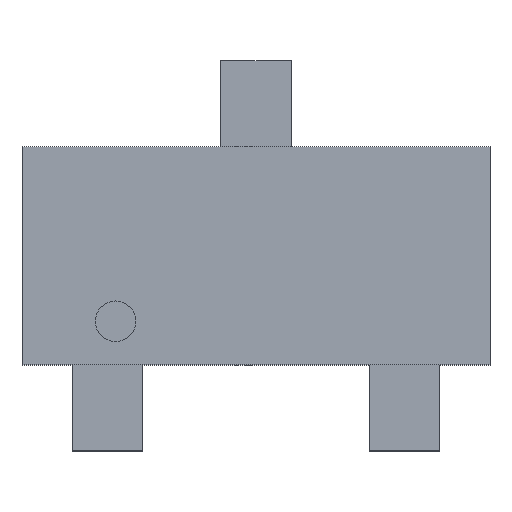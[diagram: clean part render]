
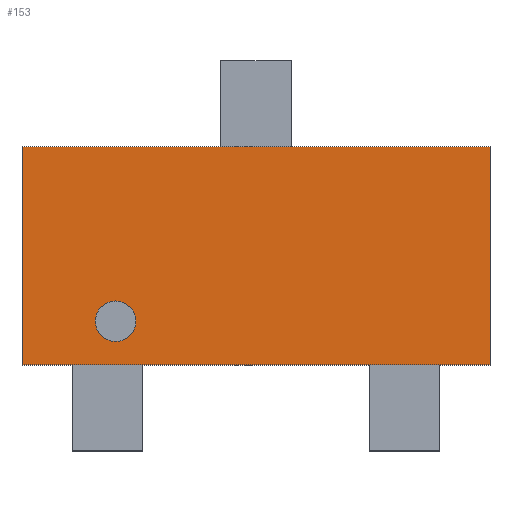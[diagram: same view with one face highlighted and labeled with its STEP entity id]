
A CAD part, top view. The second image highlights one B-rep face of the part: STEP entity #153.
In plain terms, the highlighted planar face has unit normal (0, 0, 1).
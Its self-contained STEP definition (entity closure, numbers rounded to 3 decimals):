
#24 = VERTEX_POINT('',#25);
#25 = CARTESIAN_POINT('',(-1.5,-0.7,1.1));
#31 = EDGE_CURVE('',#24,#32,#34,.T.);
#32 = VERTEX_POINT('',#33);
#33 = CARTESIAN_POINT('',(1.5,-0.7,1.1));
#34 = LINE('',#35,#36);
#35 = CARTESIAN_POINT('',(-1.5,-0.7,1.1));
#36 = VECTOR('',#37,1.);
#37 = DIRECTION('',(1.,0.,0.));
#62 = EDGE_CURVE('',#32,#63,#65,.T.);
#63 = VERTEX_POINT('',#64);
#64 = CARTESIAN_POINT('',(1.5,0.7,1.1));
#65 = LINE('',#66,#67);
#66 = CARTESIAN_POINT('',(1.5,-0.7,1.1));
#67 = VECTOR('',#68,1.);
#68 = DIRECTION('',(0.,1.,0.));
#93 = EDGE_CURVE('',#63,#94,#96,.T.);
#94 = VERTEX_POINT('',#95);
#95 = CARTESIAN_POINT('',(-1.5,0.7,1.1));
#96 = LINE('',#97,#98);
#97 = CARTESIAN_POINT('',(1.5,0.7,1.1));
#98 = VECTOR('',#99,1.);
#99 = DIRECTION('',(-1.,0.,0.));
#124 = EDGE_CURVE('',#94,#24,#125,.T.);
#125 = LINE('',#126,#127);
#126 = CARTESIAN_POINT('',(-1.5,0.7,1.1));
#127 = VECTOR('',#128,1.);
#128 = DIRECTION('',(0.,-1.,0.));
#153 = ADVANCED_FACE('',(#154),#160,.T.);
#154 = FACE_BOUND('',#155,.T.);
#155 = EDGE_LOOP('',(#156,#157,#158,#159));
#156 = ORIENTED_EDGE('',*,*,#31,.T.);
#157 = ORIENTED_EDGE('',*,*,#62,.T.);
#158 = ORIENTED_EDGE('',*,*,#93,.T.);
#159 = ORIENTED_EDGE('',*,*,#124,.T.);
#160 = PLANE('',#161);
#161 = AXIS2_PLACEMENT_3D('',#162,#163,#164);
#162 = CARTESIAN_POINT('',(0.,0.,1.1));
#163 = DIRECTION('',(0.,0.,1.));
#164 = DIRECTION('',(1.,0.,-0.));
